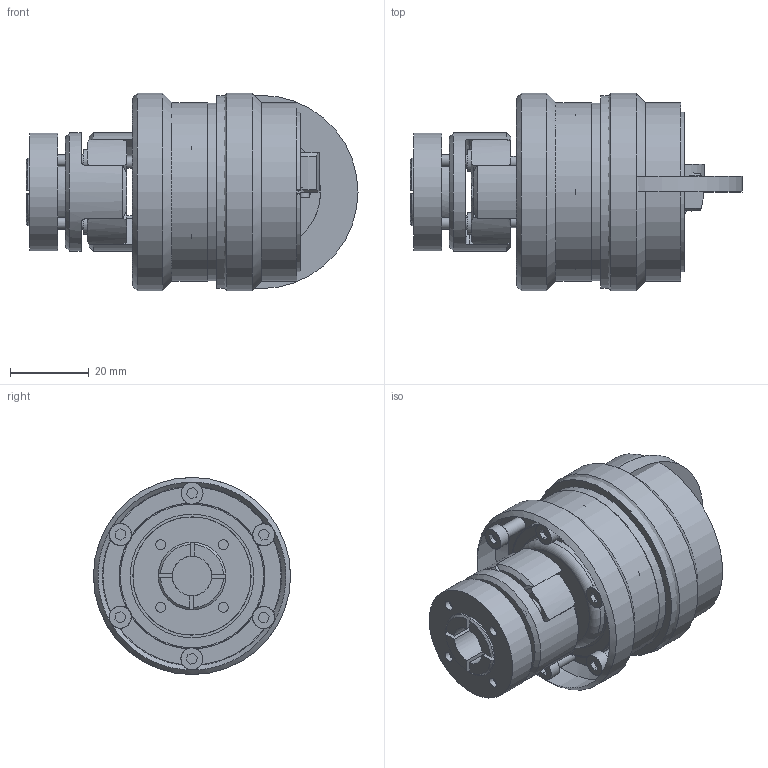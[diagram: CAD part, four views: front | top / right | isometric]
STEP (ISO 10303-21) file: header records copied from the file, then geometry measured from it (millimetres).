
FILE_DESCRIPTION( ( 'Unknown' ), '1' );
FILE_NAME( 'C:/Dokumente und Einstellungen/Sven/Desktop/hp kbk/E-AK/KBK EAK 14-682.stp', 'Unknown', ( 'Unknown' ), ( 'Unknown' ), 'XStep 1.0', 'Unknown', ' ' );
FILE_SCHEMA( ( 'automotive_design' ) );
Length unit declared in the file: millimetre
Products named in the file (20): Assem1; Assem2; Assem3; Assem4; ball_bearing_-_61904_0_01_0; ball_bearing_-_61904_0_02_0; ball_bearing_-_61904_0_03_0; Zylinderschraube DIN 912; Zylinderschraube DIN 912_0; Stellring 10_0; Druckring 10_0; a_20_0; Flansch L-LL10_0; Elastomerflansch EK 10_0; Zahnkranz_14_Standard_0; KBE3-14_Druckring_0; L-K-10 Grundteil_0; Klemmnabe 7-10_0; schraube_iso_7380-m4x12-12_9_0; KBE 3 C - 14 Nabe_0
Bounding box: 84.2 x 50 x 50 mm (x, y, z)
Volume: 147574.5 mm3; surface area: 95592.9 mm2
Topology: 45 solids, 45 shells, 781 faces, 1794 edges, 1161 vertices
Faces by surface type: plane 352, cylinder 264, cone 126, torus 37, bspline 2
Full cylindrical faces by diameter (mm): 2 x4, 2.459 x20, 2.5 x8, 2.85 x8, 3 x22, 3.242 x2, 3.4 x12, 4 x2, 4.2 x2, 5.5 x14, 5.6 x12, 6 x10, 7.3 x2, 10 x6, 14 x2, 15 x2, 18.4 x2, 19 x2, 20 x7, 22 x2, 24 x4, 25 x2, 25.6 x6, 29 x2, 29.993 x2, 30 x6, 31.4 x6, 37 x7, 38 x2, 40 x2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
Entity records: 9312 total; most frequent: CARTESIAN_POINT 2049, DIRECTION 1516, ORIENTED_EDGE 1202, AXIS2_PLACEMENT_3D 679, EDGE_CURVE 601, EDGE_LOOP 506, VERTEX_POINT 444, FACE_OUTER_BOUND 408
